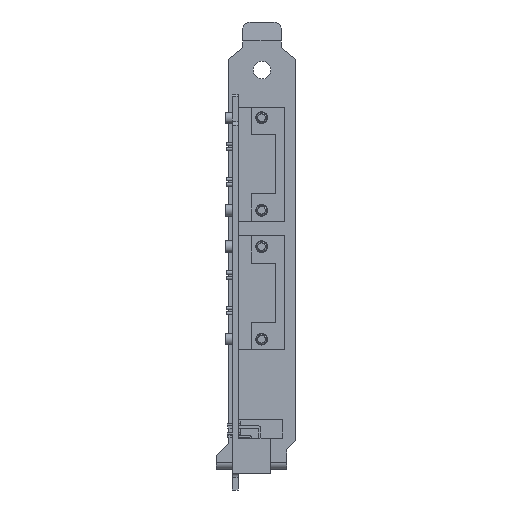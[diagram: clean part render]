
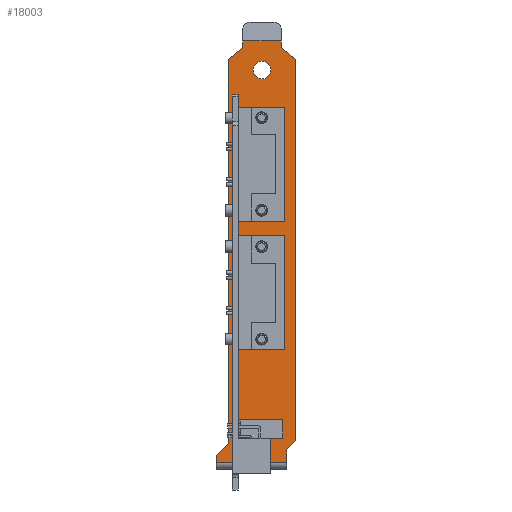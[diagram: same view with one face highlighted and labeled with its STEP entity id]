
A CAD part, front view. The second image highlights one B-rep face of the part: STEP entity #18003.
In plain terms, the highlighted planar face has unit normal (0, -1, 0).
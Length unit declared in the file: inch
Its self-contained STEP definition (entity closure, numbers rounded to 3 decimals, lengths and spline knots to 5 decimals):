
#1411=DIRECTION('',(1.,0.,0.));
#1412=VECTOR('',#1411,0.412);
#1413=CARTESIAN_POINT('',(0.108,0.33,0.764));
#1414=LINE('',#1413,#1412);
#1415=DIRECTION('',(0.,0.,-1.));
#1416=VECTOR('',#1415,0.074);
#1417=CARTESIAN_POINT('',(0.52,0.33,0.764));
#1418=LINE('',#1417,#1416);
#1419=DIRECTION('',(-0.788,0.,0.616));
#1420=VECTOR('',#1419,0.1967);
#1421=CARTESIAN_POINT('',(0.675,0.33,0.5689));
#1422=LINE('',#1421,#1420);
#1423=DIRECTION('',(0.707,0.,0.707));
#1424=VECTOR('',#1423,0.14142);
#1425=CARTESIAN_POINT('',(0.575,0.33,-3.583));
#1426=LINE('',#1425,#1424);
#1427=DIRECTION('',(0.,0.,1.));
#1428=VECTOR('',#1427,0.137);
#1429=CARTESIAN_POINT('',(0.575,0.33,-3.72));
#1430=LINE('',#1429,#1428);
#1431=DIRECTION('',(-1.,0.,0.));
#1432=VECTOR('',#1431,0.75);
#1433=CARTESIAN_POINT('',(0.575,0.33,-3.72));
#1434=LINE('',#1433,#1432);
#1435=DIRECTION('',(-0.707,0.,-0.707));
#1436=VECTOR('',#1435,0.18102);
#1437=CARTESIAN_POINT('',(-0.047,0.33,-3.514));
#1438=LINE('',#1437,#1436);
#1439=DIRECTION('',(0.,0.,-1.));
#1440=VECTOR('',#1439,4.0829);
#1441=CARTESIAN_POINT('',(-0.047,0.33,0.5689));
#1442=LINE('',#1441,#1440);
#1443=DIRECTION('',(-0.788,0.,-0.616));
#1444=VECTOR('',#1443,0.1967);
#1445=CARTESIAN_POINT('',(0.108,0.33,0.69));
#1446=LINE('',#1445,#1444);
#1447=DIRECTION('',(0.,0.,-1.));
#1448=VECTOR('',#1447,0.074);
#1449=CARTESIAN_POINT('',(0.108,0.33,0.764));
#1450=LINE('',#1449,#1448);
#1451=CARTESIAN_POINT('',(0.314,0.33,0.453));
#1452=DIRECTION('',(0.,1.,0.));
#1453=DIRECTION('',(0.,0.,1.));
#1454=AXIS2_PLACEMENT_3D('',#1451,#1452,#1453);
#1456=CARTESIAN_POINT('',(0.314,0.33,0.453));
#1457=DIRECTION('',(0.,1.,0.));
#1458=DIRECTION('',(0.,0.,-1.));
#1459=AXIS2_PLACEMENT_3D('',#1456,#1457,#1458);
#1461=DIRECTION('',(0.,0.,-1.));
#1462=VECTOR('',#1461,0.144);
#1463=CARTESIAN_POINT('',(0.112,0.33,-3.288));
#1464=LINE('',#1463,#1462);
#1465=DIRECTION('',(1.,0.,0.));
#1466=VECTOR('',#1465,0.4);
#1467=CARTESIAN_POINT('',(0.112,0.33,-3.432));
#1468=LINE('',#1467,#1466);
#1469=DIRECTION('',(0.,0.,1.));
#1470=VECTOR('',#1469,0.144);
#1471=CARTESIAN_POINT('',(0.512,0.33,-3.432));
#1472=LINE('',#1471,#1470);
#1473=DIRECTION('',(-1.,0.,0.));
#1474=VECTOR('',#1473,0.4);
#1475=CARTESIAN_POINT('',(0.512,0.33,-3.288));
#1476=LINE('',#1475,#1474);
#1477=DIRECTION('',(1.,0.,0.));
#1478=VECTOR('',#1477,0.494);
#1479=CARTESIAN_POINT('',(0.062,0.33,-1.15157));
#1480=LINE('',#1479,#1478);
#1481=DIRECTION('',(0.,0.,1.));
#1482=VECTOR('',#1481,1.213);
#1483=CARTESIAN_POINT('',(0.556,0.33,-1.15157));
#1484=LINE('',#1483,#1482);
#1485=DIRECTION('',(1.,0.,0.));
#1486=VECTOR('',#1485,0.494);
#1487=CARTESIAN_POINT('',(0.062,0.33,0.06143));
#1488=LINE('',#1487,#1486);
#1489=DIRECTION('',(0.,0.,1.));
#1490=VECTOR('',#1489,1.213);
#1491=CARTESIAN_POINT('',(0.062,0.33,-1.15157));
#1492=LINE('',#1491,#1490);
#1493=DIRECTION('',(1.,0.,0.));
#1494=VECTOR('',#1493,0.494);
#1495=CARTESIAN_POINT('',(0.062,0.33,-2.52143));
#1496=LINE('',#1495,#1494);
#1497=DIRECTION('',(0.,0.,1.));
#1498=VECTOR('',#1497,1.213);
#1499=CARTESIAN_POINT('',(0.556,0.33,-2.52143));
#1500=LINE('',#1499,#1498);
#1501=DIRECTION('',(1.,0.,0.));
#1502=VECTOR('',#1501,0.494);
#1503=CARTESIAN_POINT('',(0.062,0.33,-1.30843));
#1504=LINE('',#1503,#1502);
#1505=DIRECTION('',(0.,0.,1.));
#1506=VECTOR('',#1505,1.213);
#1507=CARTESIAN_POINT('',(0.062,0.33,-2.52143));
#1508=LINE('',#1507,#1506);
#1555=DIRECTION('',(0.,0.,1.));
#1556=VECTOR('',#1555,0.078);
#1557=CARTESIAN_POINT('',(-0.175,0.33,-3.72));
#1558=LINE('',#1557,#1556);
#1909=DIRECTION('',(0.,0.,1.));
#1910=VECTOR('',#1909,4.0519);
#1911=CARTESIAN_POINT('',(0.675,0.33,-3.483));
#1912=LINE('',#1911,#1910);
#15692=CARTESIAN_POINT('',(-0.175,0.33,-3.72));
#15694=VERTEX_POINT('',#15692);
#15695=CARTESIAN_POINT('',(0.575,0.33,-3.72));
#15697=VERTEX_POINT('',#15695);
#15699=CARTESIAN_POINT('',(0.575,0.33,-3.583));
#15700=VERTEX_POINT('',#15699);
#15701=CARTESIAN_POINT('',(0.675,0.33,-3.483));
#15702=VERTEX_POINT('',#15701);
#15703=CARTESIAN_POINT('',(0.108,0.33,0.69));
#15704=CARTESIAN_POINT('',(-0.047,0.33,0.5689));
#15705=VERTEX_POINT('',#15703);
#15706=VERTEX_POINT('',#15704);
#15707=CARTESIAN_POINT('',(-0.047,0.33,-3.514));
#15708=VERTEX_POINT('',#15707);
#15709=CARTESIAN_POINT('',(-0.175,0.33,-3.642));
#15710=VERTEX_POINT('',#15709);
#15711=CARTESIAN_POINT('',(0.675,0.33,0.5689));
#15712=CARTESIAN_POINT('',(0.52,0.33,0.69));
#15713=VERTEX_POINT('',#15711);
#15714=VERTEX_POINT('',#15712);
#15823=CARTESIAN_POINT('',(0.314,0.33,0.5465));
#15824=CARTESIAN_POINT('',(0.314,0.33,0.3595));
#15825=VERTEX_POINT('',#15823);
#15826=VERTEX_POINT('',#15824);
#15827=CARTESIAN_POINT('',(0.108,0.33,0.764));
#15828=VERTEX_POINT('',#15827);
#15829=CARTESIAN_POINT('',(0.52,0.33,0.764));
#15830=VERTEX_POINT('',#15829);
#15851=CARTESIAN_POINT('',(0.112,0.33,-3.288));
#15852=CARTESIAN_POINT('',(0.112,0.33,-3.432));
#15853=VERTEX_POINT('',#15851);
#15854=VERTEX_POINT('',#15852);
#15855=CARTESIAN_POINT('',(0.512,0.33,-3.432));
#15856=VERTEX_POINT('',#15855);
#15857=CARTESIAN_POINT('',(0.512,0.33,-3.288));
#15858=VERTEX_POINT('',#15857);
#16179=CARTESIAN_POINT('',(0.062,0.33,-1.15157));
#16180=CARTESIAN_POINT('',(0.556,0.33,-1.15157));
#16181=VERTEX_POINT('',#16179);
#16182=VERTEX_POINT('',#16180);
#16183=CARTESIAN_POINT('',(0.062,0.33,0.06143));
#16184=CARTESIAN_POINT('',(0.556,0.33,0.06143));
#16185=VERTEX_POINT('',#16183);
#16186=VERTEX_POINT('',#16184);
#16463=CARTESIAN_POINT('',(0.062,0.33,-2.52143));
#16464=CARTESIAN_POINT('',(0.556,0.33,-2.52143));
#16465=VERTEX_POINT('',#16463);
#16466=VERTEX_POINT('',#16464);
#16467=CARTESIAN_POINT('',(0.062,0.33,-1.30843));
#16468=CARTESIAN_POINT('',(0.556,0.33,-1.30843));
#16469=VERTEX_POINT('',#16467);
#16470=VERTEX_POINT('',#16468);
#17942=CARTESIAN_POINT('',(0.675,0.33,-3.72));
#17943=DIRECTION('',(0.,1.,0.));
#17944=DIRECTION('',(0.,0.,1.));
#17945=AXIS2_PLACEMENT_3D('',#17942,#17943,#17944);
#17946=PLANE('',#17945);
#17948=ORIENTED_EDGE('',*,*,#17947,.T.);
#17950=ORIENTED_EDGE('',*,*,#17949,.T.);
#17952=ORIENTED_EDGE('',*,*,#17951,.F.);
#17954=ORIENTED_EDGE('',*,*,#17953,.F.);
#17956=ORIENTED_EDGE('',*,*,#17955,.F.);
#17958=ORIENTED_EDGE('',*,*,#17957,.F.);
#17960=ORIENTED_EDGE('',*,*,#17959,.T.);
#17962=ORIENTED_EDGE('',*,*,#17961,.T.);
#17964=ORIENTED_EDGE('',*,*,#17963,.F.);
#17966=ORIENTED_EDGE('',*,*,#17965,.F.);
#17968=ORIENTED_EDGE('',*,*,#17967,.F.);
#17970=ORIENTED_EDGE('',*,*,#17969,.F.);
#17971=EDGE_LOOP('',(#17948,#17950,#17952,#17954,#17956,#17958,#17960,#17962,
#17964,#17966,#17968,#17970));
#17972=FACE_OUTER_BOUND('',#17971,.F.);
#17974=ORIENTED_EDGE('',*,*,#17973,.F.);
#17976=ORIENTED_EDGE('',*,*,#17975,.F.);
#17977=EDGE_LOOP('',(#17974,#17976));
#17978=FACE_BOUND('',#17977,.F.);
#17980=ORIENTED_EDGE('',*,*,#17979,.T.);
#17982=ORIENTED_EDGE('',*,*,#17981,.T.);
#17984=ORIENTED_EDGE('',*,*,#17983,.T.);
#17986=ORIENTED_EDGE('',*,*,#17985,.T.);
#17987=EDGE_LOOP('',(#17980,#17982,#17984,#17986));
#17988=FACE_BOUND('',#17987,.F.);
#17989=ORIENTED_EDGE('',*,*,#17895,.T.);
#17991=ORIENTED_EDGE('',*,*,#17990,.T.);
#17992=ORIENTED_EDGE('',*,*,#17930,.F.);
#17993=ORIENTED_EDGE('',*,*,#17874,.F.);
#17994=EDGE_LOOP('',(#17989,#17991,#17992,#17993));
#17995=FACE_BOUND('',#17994,.F.);
#17996=ORIENTED_EDGE('',*,*,#17783,.T.);
#17998=ORIENTED_EDGE('',*,*,#17997,.T.);
#17999=ORIENTED_EDGE('',*,*,#17820,.F.);
#18000=ORIENTED_EDGE('',*,*,#17840,.F.);
#18001=EDGE_LOOP('',(#17996,#17998,#17999,#18000));
#18002=FACE_BOUND('',#18001,.F.);
#18003=ADVANCED_FACE('',(#17972,#17978,#17988,#17995,#18002),#17946,.F.);
#1455=CIRCLE('',#1454,0.0935);
#1460=CIRCLE('',#1459,0.0935);
#17783=EDGE_CURVE('',#16465,#16466,#1496,.T.);
#17820=EDGE_CURVE('',#16469,#16470,#1504,.T.);
#17840=EDGE_CURVE('',#16465,#16469,#1508,.T.);
#17874=EDGE_CURVE('',#16181,#16185,#1492,.T.);
#17895=EDGE_CURVE('',#16181,#16182,#1480,.T.);
#17930=EDGE_CURVE('',#16185,#16186,#1488,.T.);
#17947=EDGE_CURVE('',#15828,#15830,#1414,.T.);
#17949=EDGE_CURVE('',#15830,#15714,#1418,.T.);
#17951=EDGE_CURVE('',#15713,#15714,#1422,.T.);
#17953=EDGE_CURVE('',#15702,#15713,#1912,.T.);
#17955=EDGE_CURVE('',#15700,#15702,#1426,.T.);
#17957=EDGE_CURVE('',#15697,#15700,#1430,.T.);
#17959=EDGE_CURVE('',#15697,#15694,#1434,.T.);
#17961=EDGE_CURVE('',#15694,#15710,#1558,.T.);
#17963=EDGE_CURVE('',#15708,#15710,#1438,.T.);
#17965=EDGE_CURVE('',#15706,#15708,#1442,.T.);
#17967=EDGE_CURVE('',#15705,#15706,#1446,.T.);
#17969=EDGE_CURVE('',#15828,#15705,#1450,.T.);
#17973=EDGE_CURVE('',#15825,#15826,#1455,.T.);
#17975=EDGE_CURVE('',#15826,#15825,#1460,.T.);
#17979=EDGE_CURVE('',#15853,#15854,#1464,.T.);
#17981=EDGE_CURVE('',#15854,#15856,#1468,.T.);
#17983=EDGE_CURVE('',#15856,#15858,#1472,.T.);
#17985=EDGE_CURVE('',#15858,#15853,#1476,.T.);
#17990=EDGE_CURVE('',#16182,#16186,#1484,.T.);
#17997=EDGE_CURVE('',#16466,#16470,#1500,.T.);
